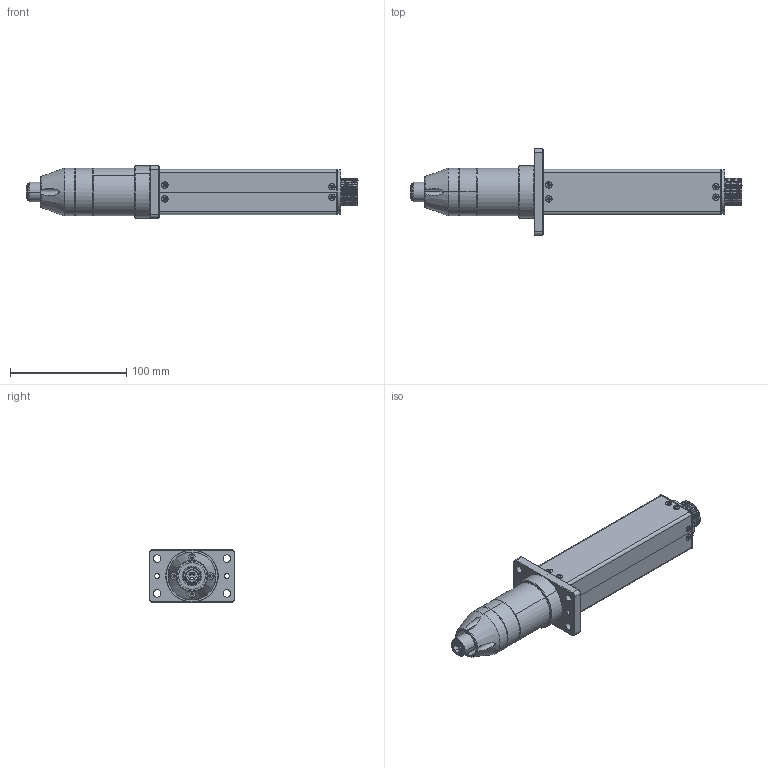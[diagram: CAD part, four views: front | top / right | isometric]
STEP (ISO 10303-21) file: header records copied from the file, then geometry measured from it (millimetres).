
FILE_DESCRIPTION (( 'STEP AP203' ), '1' );
FILE_NAME ('EC,ECT50200-R,50300-R,50500-R.STEP', '2021-12-23T06:01:18', ( '' ), ( '' ), 'SwSTEP 2.0', 'SolidWorks 2020', '' );
FILE_SCHEMA (( 'CONFIG_CONTROL_DESIGN' ));
Length unit declared in the file: millimetre
Products named in the file (1): EC,ECT50200-R,50300-R,50500-R
Bounding box: 285.75 x 74 x 45 mm (x, y, z)
Surface area: 55102.4 mm2 (no closed solid volume)
Topology: 0 solids, 62 shells, 721 faces, 2548 edges, 1821 vertices
Faces by surface type: plane 318, cylinder 232, cone 154, bspline 17
Entity records: 30937 total; most frequent: CARTESIAN_POINT 10453, DIRECTION 4044, ORIENTED_EDGE 3817, EDGE_CURVE 2542, VERTEX_POINT 1821, AXIS2_PLACEMENT_3D 1482, LINE 1080, VECTOR 1080
